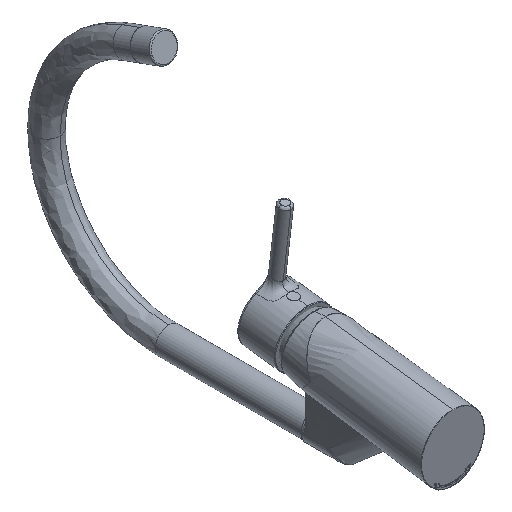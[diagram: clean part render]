
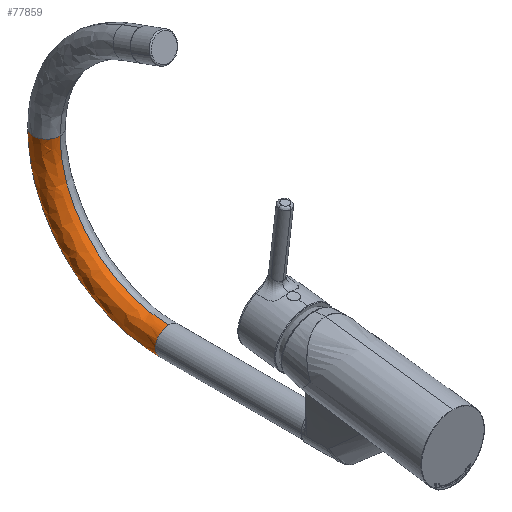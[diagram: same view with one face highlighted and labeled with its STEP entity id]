
A CAD part, isometric view. The second image highlights one B-rep face of the part: STEP entity #77859.
In plain terms, the highlighted free-form (B-spline) face has degree [3, 3] with [4, 4] control points.
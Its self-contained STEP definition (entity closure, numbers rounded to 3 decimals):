
#500 = CARTESIAN_POINT ( 'NONE',  ( 0.225, 241.74, 62. ) ) ;
#1242 = VERTEX_POINT ( 'NONE', #67721 ) ;
#3473 = CARTESIAN_POINT ( 'NONE',  ( -22.692, 334.43, 7.763 ) ) ;
#4044 = CARTESIAN_POINT ( 'NONE',  ( 0.108, 334.43, 7.714 ) ) ;
#6659 = FACE_OUTER_BOUND ( 'NONE', #33519, .T. ) ;
#7563 = EDGE_CURVE ( 'NONE', #83691, #1242, #34235, .T. ) ;
#9693 = ORIENTED_EDGE ( 'NONE', *, *, #83122, .F. ) ;
#9765 = CARTESIAN_POINT ( 'NONE',  ( -22.775, 241.748, -30.636 ) ) ;
#9790 = CIRCLE ( 'NONE', #65539, 11.4 ) ;
#10334 = CARTESIAN_POINT ( 'NONE',  ( -0.025, 309.399, -53.48 ) ) ;
#13554 = CARTESIAN_POINT ( 'NONE',  ( 0.225, 241.74, 62. ) ) ;
#13740 = DIRECTION ( 'NONE',  ( -0.002, 0., -1. ) ) ;
#14093 = DIRECTION ( 'NONE',  ( -0.002, 0., -1. ) ) ;
#16375 = ORIENTED_EDGE ( 'NONE', *, *, #7563, .T. ) ;
#16628 = CARTESIAN_POINT ( 'NONE',  ( -22.575, 357.226, 62.059 ) ) ;
#17797 = ORIENTED_EDGE ( 'NONE', *, *, #76696, .T. ) ;
#20900 = DIRECTION ( 'NONE',  ( 0., 1., 0. ) ) ;
#21092 = DIRECTION ( 'NONE',  ( 0., 1., 0. ) ) ;
#23501 = CARTESIAN_POINT ( 'NONE',  ( 0.225, 334.426, 62.007 ) ) ;
#23785 = CARTESIAN_POINT ( 'NONE',  ( 0.225, 357.226, 62.009 ) ) ;
#24647 = CARTESIAN_POINT ( 'NONE',  ( 0.025, 241.748, -30.686 ) ) ;
#25576 = AXIS2_PLACEMENT_3D ( 'NONE', #500, #33940, #88551 ) ;
#30743 = VERTEX_POINT ( 'NONE', #80542 ) ;
#33519 = EDGE_LOOP ( 'NONE', ( #9693, #17797, #16375, #64469, #53615 ) ) ;
#33940 = DIRECTION ( 'NONE',  ( -1., 0., 0.002 ) ) ;
#34127 = DIRECTION ( 'NONE',  ( 0., 1., 0. ) ) ;
#34235 = CIRCLE ( 'NONE', #47897, 115.485 ) ;
#34702 =( BOUNDED_SURFACE ( )  B_SPLINE_SURFACE ( 3, 3, ( 
 ( #23501, #4044, #72064, #24647 ),
 ( #44068, #3473, #78374, #9765 ),
 ( #16628, #51207, #58355, #58066 ),
 ( #23785, #78658, #10334, #71214 ) ),
 .UNSPECIFIED., .F., .F., .T. ) 
 B_SPLINE_SURFACE_WITH_KNOTS ( ( 4, 4 ),
 ( 4, 4 ),
 ( 0., 1. ),
 ( 0., 1. ),
 .UNSPECIFIED. ) 
 GEOMETRIC_REPRESENTATION_ITEM ( )  RATIONAL_B_SPLINE_SURFACE ( (
 ( 1., 0.805, 0.805, 1.),
 ( 0.333, 0.268, 0.268, 0.333),
 ( 0.333, 0.268, 0.268, 0.333),
 ( 1., 0.805, 0.805, 1.) ) ) 
 REPRESENTATION_ITEM ( '' )  SURFACE ( )  );
#35953 = CARTESIAN_POINT ( 'NONE',  ( 0., 241.749, -42.086 ) ) ;
#37921 = EDGE_CURVE ( 'NONE', #1242, #84472, #66025, .T. ) ;
#41949 = DIRECTION ( 'NONE',  ( -0.002, 0., -1. ) ) ;
#44068 = CARTESIAN_POINT ( 'NONE',  ( -22.575, 334.426, 62.057 ) ) ;
#45503 = CARTESIAN_POINT ( 'NONE',  ( 0.025, 241.748, -30.686 ) ) ;
#47897 = AXIS2_PLACEMENT_3D ( 'NONE', #13554, #61270, #34127 ) ;
#50153 = AXIS2_PLACEMENT_3D ( 'NONE', #35953, #21092, #41949 ) ;
#50199 = AXIS2_PLACEMENT_3D ( 'NONE', #81808, #68369, #14093 ) ;
#51207 = CARTESIAN_POINT ( 'NONE',  ( -22.721, 357.231, -5.591 ) ) ;
#53615 = ORIENTED_EDGE ( 'NONE', *, *, #79510, .T. ) ;
#54886 = CARTESIAN_POINT ( 'NONE',  ( 0.225, 345.826, 62.008 ) ) ;
#58066 = CARTESIAN_POINT ( 'NONE',  ( -22.825, 241.75, -53.436 ) ) ;
#58355 = CARTESIAN_POINT ( 'NONE',  ( -22.825, 309.399, -53.431 ) ) ;
#61270 = DIRECTION ( 'NONE',  ( -1., 0., 0.002 ) ) ;
#64469 = ORIENTED_EDGE ( 'NONE', *, *, #37921, .T. ) ;
#65233 = CIRCLE ( 'NONE', #25576, 92.685 ) ;
#65539 = AXIS2_PLACEMENT_3D ( 'NONE', #54886, #13740, #20900 ) ;
#66025 = CIRCLE ( 'NONE', #50199, 11.4 ) ;
#66633 = CARTESIAN_POINT ( 'NONE',  ( -11.4, 241.749, -42.061 ) ) ;
#67721 = CARTESIAN_POINT ( 'NONE',  ( -0.025, 241.75, -53.486 ) ) ;
#68369 = DIRECTION ( 'NONE',  ( 0., 1., 0. ) ) ;
#69647 = CIRCLE ( 'NONE', #50153, 11.4 ) ;
#71214 = CARTESIAN_POINT ( 'NONE',  ( -0.025, 241.75, -53.486 ) ) ;
#72064 = CARTESIAN_POINT ( 'NONE',  ( 0.025, 296.042, -30.681 ) ) ;
#73724 = VERTEX_POINT ( 'NONE', #45503 ) ;
#75997 = CARTESIAN_POINT ( 'NONE',  ( 0.225, 357.226, 62.009 ) ) ;
#76696 = EDGE_CURVE ( 'NONE', #30743, #83691, #9790, .T. ) ;
#77859 = ADVANCED_FACE ( 'NONE', ( #6659 ), #34702, .T. ) ;
#78374 = CARTESIAN_POINT ( 'NONE',  ( -22.775, 296.042, -30.632 ) ) ;
#78658 = CARTESIAN_POINT ( 'NONE',  ( 0.079, 357.231, -5.64 ) ) ;
#79510 = EDGE_CURVE ( 'NONE', #84472, #73724, #69647, .T. ) ;
#80542 = CARTESIAN_POINT ( 'NONE',  ( 0.225, 334.426, 62.007 ) ) ;
#81808 = CARTESIAN_POINT ( 'NONE',  ( 0., 241.749, -42.086 ) ) ;
#83122 = EDGE_CURVE ( 'NONE', #30743, #73724, #65233, .T. ) ;
#83691 = VERTEX_POINT ( 'NONE', #75997 ) ;
#84472 = VERTEX_POINT ( 'NONE', #66633 ) ;
#88551 = DIRECTION ( 'NONE',  ( 0., 1., 0. ) ) ;
